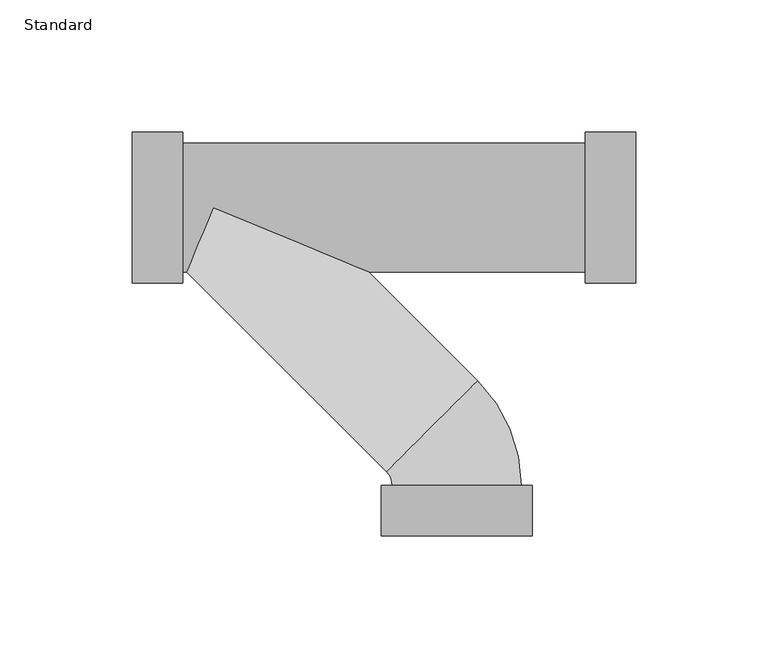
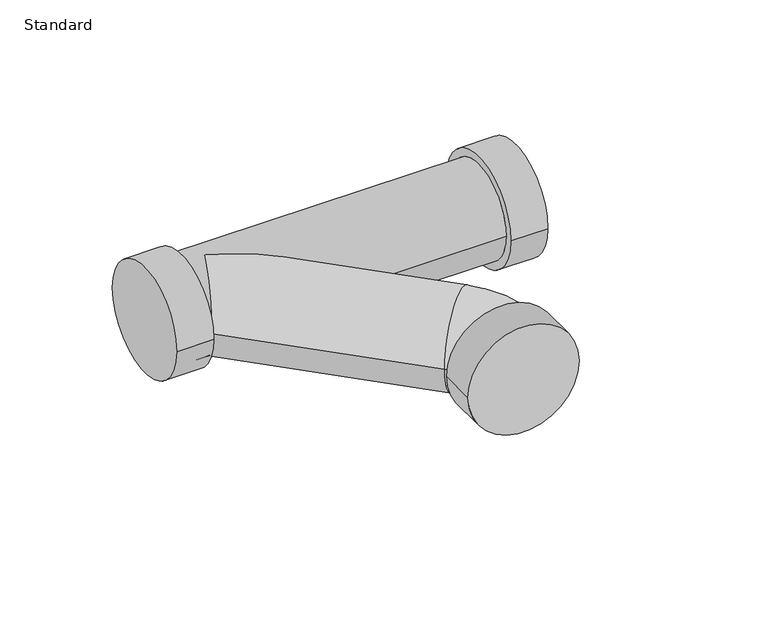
"""IFC4 building model written with IfcOpenShell, lengths in millimetres: pipe fitting geometry, GES Wye Combination with 8th Bend - PVC - Sch 40 - DWV : Standard."""

from ifc_helpers import new_model, si_unit, point, frame, origin, place, context, project, spatial, circle_curve, ellipse_curve, trimmed, source, transform, mapped, element, save
from ifc_brep_helpers import plane_surface, cylinder_surface, revolved_surface, advanced_brep


def standard_bea11b30(model_context):
    return source(origin(), model_context, "Body", "AdvancedBrep", [
        advanced_brep(
        [(-122.793125, -28.5611094, 0.0), (-122.793125, 28.5611094, 0.0), (-103.743125, -28.5611094, 0.0), (-103.743125, 28.5611094, 0.0), (-103.743125, -24.3760625, 0.0), (-103.743125, 24.3760625, 0.0), (48.7045, 24.3760625, 0.0), (-102.214525, -24.3760625, 0.0), (-92.1176293, 0.0, 24.3760625), (-33.2686086, -24.3760625, 0.0), (48.7045, -24.3760625, 0.0), (-92.1176293, 0.0, -24.3760625), (48.7045, -28.5611094, 0.0), (48.7045, 28.5611094, 0.0), (67.7545, -28.5611094, 0.0), (67.7545, 28.5611094, 0.0), (-26.5317703, -100.0588172, 0.0), (-24.3760625, -105.2631562, 0.0), (24.3760625, -105.2631562, 0.0), (7.9411879, -65.585859, 0.0), (-28.5611094, -105.2631563, 0.0), (28.5611094, -105.2631563, 0.0), (-28.5611094, -124.3131563, 0.0), (28.5611094, -124.3131563, 0.0)],
        [
            (0, 1, circle_curve(frame((-122.793125, 0.0, 0.0), z_axis=(-1.0, 0.0, 0.0), x_axis=(0.0, 1.0, 0.0)), 28.5611094)),
            (1, 0, circle_curve(frame((-122.793125, 0.0, 0.0), z_axis=(-1.0, 0.0, 0.0), x_axis=(0.0, 1.0, 0.0)), 28.5611094)),
            (2, 3, circle_curve(frame((-103.743125, 0.0, 0.0), z_axis=(1.0, 0.0, 0.0), x_axis=(0.0, 1.0, 0.0)), 28.5611094)),
            (3, 2, circle_curve(frame((-103.743125, 0.0, 0.0), z_axis=(1.0, 0.0, 0.0), x_axis=(0.0, 1.0, 0.0)), 28.5611094)),
            (4, 5, circle_curve(frame((-103.743125, 0.0, 0.0), z_axis=(-1.0, 0.0, 0.0), x_axis=(0.0, 1.0, 0.0)), 24.3760625)),
            (5, 4, circle_curve(frame((-103.743125, 0.0, 0.0), z_axis=(-1.0, 0.0, 0.0), x_axis=(0.0, 1.0, 0.0)), 24.3760625)),
            (0, 2),
            (3, 1),
            (6, 5),
            (4, 7),
            (7, 8, ellipse_curve(frame((-92.1176293, 0.0, 0.0), z_axis=(-0.9238795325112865, 0.3826834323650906, 0.0), x_axis=(-0.38268343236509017, -0.9238795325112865, 0.0)), 26.3844599, 24.3760625)),
            (8, 9, ellipse_curve(frame((-92.1176293, 0.0, 0.0), z_axis=(0.38268343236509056, 0.9238795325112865, 0.0), x_axis=(-0.9238795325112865, 0.3826834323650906, 0.0)), 63.697721, 24.3760625)),
            (9, 10),
            (10, 6, circle_curve(frame((48.7045, 0.0, 0.0), z_axis=(-1.0, 0.0, 0.0), x_axis=(0.0, 1.0, 0.0)), 24.3760625)),
            (6, 10, circle_curve(frame((48.7045, 0.0, 0.0), z_axis=(-1.0, 0.0, 0.0), x_axis=(0.0, 1.0, 0.0)), 24.3760625)),
            (9, 11, ellipse_curve(frame((-92.1176293, 0.0, 0.0), z_axis=(0.38268343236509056, 0.9238795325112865, 0.0), x_axis=(-0.9238795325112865, 0.3826834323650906, 0.0)), 63.697721, 24.3760625)),
            (11, 7, ellipse_curve(frame((-92.1176293, 0.0, 0.0), z_axis=(-0.9238795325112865, 0.3826834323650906, 0.0), x_axis=(-0.38268343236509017, -0.9238795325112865, 0.0)), 26.3844599, 24.3760625)),
            (12, 13, circle_curve(frame((48.7045, 0.0, 0.0), z_axis=(-1.0, 0.0, 0.0), x_axis=(0.0, 1.0, 0.0)), 28.5611094)),
            (13, 12, circle_curve(frame((48.7045, 0.0, 0.0), z_axis=(-1.0, 0.0, 0.0), x_axis=(0.0, 1.0, 0.0)), 28.5611094)),
            (14, 15, circle_curve(frame((67.7545, 0.0, 0.0), z_axis=(1.0, 0.0, 0.0), x_axis=(0.0, 1.0, 0.0)), 28.5611094)),
            (15, 14, circle_curve(frame((67.7545, 0.0, 0.0), z_axis=(1.0, 0.0, 0.0), x_axis=(0.0, 1.0, 0.0)), 28.5611094)),
            (12, 14),
            (15, 13),
            (16, 17, circle_curve(frame((-31.7361094, -105.2631562, 0.0), z_axis=(0.0, 0.0, -1.0), x_axis=(1.0, 0.0, 0.0)), 7.3600469)),
            (17, 18, circle_curve(frame((0.0, -105.2631562, 0.0), z_axis=(0.0, 1.0, 0.0), x_axis=(-1.0, 0.0, 0.0)), 24.3760625)),
            (18, 19, circle_curve(frame((-31.7361094, -105.2631562, 0.0), z_axis=(0.0, 0.0, 1.0), x_axis=(1.0, 0.0, 0.0)), 56.1121719)),
            (19, 16, circle_curve(frame((-9.2952912, -82.8223381, 0.0), z_axis=(0.7071067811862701, -0.7071067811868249, 0.0), x_axis=(-0.7071067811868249, -0.7071067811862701, 0.0)), 24.3760625)),
            (16, 19, circle_curve(frame((-9.2952912, -82.8223381, 0.0), z_axis=(0.7071067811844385, -0.7071067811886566, 0.0), x_axis=(-0.7071067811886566, -0.7071067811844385, 0.0)), 24.3760625)),
            (18, 17, circle_curve(frame((0.0, -105.2631562, 0.0), z_axis=(0.0, 1.0, 0.0), x_axis=(-1.0, 0.0, 0.0)), 24.3760625)),
            (19, 9),
            (7, 16),
            (20, 21, circle_curve(frame((0.0, -105.2631563, 0.0), z_axis=(0.0, 1.0, 0.0), x_axis=(1.0, 0.0, 0.0)), 28.5611094)),
            (21, 20, circle_curve(frame((0.0, -105.2631563, 0.0), z_axis=(0.0, 1.0, 0.0), x_axis=(1.0, 0.0, 0.0)), 28.5611094)),
            (22, 23, circle_curve(frame((0.0, -124.3131563, 0.0), z_axis=(0.0, -1.0, 0.0), x_axis=(1.0, 0.0, 0.0)), 28.5611094)),
            (23, 22, circle_curve(frame((0.0, -124.3131563, 0.0), z_axis=(0.0, -1.0, 0.0), x_axis=(1.0, 0.0, 0.0)), 28.5611094)),
            (20, 22),
            (23, 21),
        ],
        [
            plane_surface(frame((-122.793125, 0.0, 0.0), z_axis=(-1.0, 0.0, 0.0), x_axis=(0.0, 0.0, 1.0))),
            plane_surface(frame((-103.743125, 0.0, 0.0), z_axis=(1.0, 0.0, 0.0), x_axis=(0.0, 0.0, 1.0))),
            cylinder_surface(frame((-122.793125, 0.0, 0.0), z_axis=(-1.0, 0.0, 0.0), x_axis=(0.0, 1.0, 0.0)), 28.5611094),
            cylinder_surface(frame((-103.743125, 0.0, 0.0), z_axis=(-1.0, 0.0, 0.0), x_axis=(0.0, 1.0, 0.0)), 24.3760625),
            plane_surface(frame((48.7045, 0.0, 0.0), z_axis=(-1.0, 0.0, 0.0), x_axis=(0.0, 0.0, 1.0))),
            plane_surface(frame((67.7545, 0.0, 0.0), z_axis=(1.0, 0.0, 0.0), x_axis=(0.0, 0.0, 1.0))),
            cylinder_surface(frame((48.7045, 0.0, 0.0), z_axis=(-1.0, 0.0, 0.0), x_axis=(0.0, 1.0, 0.0)), 28.5611094),
            revolved_surface(trimmed(ellipse_curve(frame((0.0, -105.2631562, 0.0), z_axis=(0.0, -1.0, 0.0), x_axis=(-1.0, 0.0, 0.0)), 24.3760625, 24.3760625), [point((24.3760625, -105.2631562, 0.0))], [point((-24.3760625, -105.2631562, 0.0))], True, "CARTESIAN"), (-31.7361094, -105.2631562, 0.0), (0.0, 0.0, 1.0)),
            revolved_surface(trimmed(ellipse_curve(frame((0.0, -105.2631562, 0.0), z_axis=(0.0, -1.0, 0.0), x_axis=(-1.0, 0.0, 0.0)), 24.3760625, 24.3760625), [point((-24.3760625, -105.2631562, 0.0))], [point((24.3760625, -105.2631562, 0.0))], True, "CARTESIAN"), (-31.7361094, -105.2631562, 0.0), (0.0, 0.0, 1.0)),
            cylinder_surface(frame((-9.2952912, -82.8223381, 0.0), z_axis=(0.7071067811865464, -0.7071067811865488, 0.0), x_axis=(-0.7071067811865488, -0.7071067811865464, 0.0)), 24.3760625),
            plane_surface(frame((0.0, -105.2631563, 0.0), z_axis=(0.0, 1.0, 0.0), x_axis=(0.0, 0.0, 1.0))),
            plane_surface(frame((0.0, -124.3131563, 0.0), z_axis=(0.0, -1.0, 0.0), x_axis=(0.0, 0.0, 1.0))),
            cylinder_surface(frame((0.0, -105.2631563, 0.0), z_axis=(0.0, 1.0, 0.0), x_axis=(1.0, 0.0, 0.0)), 28.5611094),
        ],
        [
            (0, [[1, 2]]),
            (1, [[3, 4], [5, 6]]),
            (2, [[-1, 7, -4, 8]]),
            (2, [[-2, -8, -3, -7]]),
            (3, [[9, -5, 10, 11, 12, 13, 14]]),
            (3, [[-9, 15, -13, 16, 17, -10, -6]]),
            (4, [[18, 19], [-14, -15]]),
            (5, [[20, 21]]),
            (6, [[-18, 22, -21, 23]]),
            (6, [[-19, -23, -20, -22]]),
            (7, [[24, 25, 26, 27]]),
            (8, [[-24, 28, -26, 29]]),
            (9, [[-27, 30, -12, -11, 31]]),
            (9, [[-28, -31, -17, -16, -30]]),
            (10, [[32, 33], [-25, -29]]),
            (11, [[34, 35]]),
            (12, [[-32, 36, -35, 37]]),
            (12, [[-33, -37, -34, -36]]),
        ],
    ),
    ])


if __name__ == "__main__":
    model = new_model("IFC4")
    model_context = context("Model", 3, world=origin())
    ifc_project = project(units=[si_unit("LENGTHUNIT", "METRE", prefix="MILLI")], contexts=[model_context])
    site = spatial("IfcSite", under=ifc_project)
    building = spatial("IfcBuilding", under=site)
    placement = place(None, origin())
    standard_shape = standard_bea11b30(model_context)
    element("IfcPipeFitting", 1, ObjectType="GES Wye Combination with 8th Bend - PVC - Sch 40 - DWV : Standard", at=placement, inside=building, context=model_context, shape_type="MappedRepresentation", body=[
        mapped(standard_shape, transform((0.0, 0.0, 0.0), x_axis=(1.0, 0.0, 0.0), y_axis=(0.0, 1.0, 0.0), z_axis=(0.0, 0.0, 1.0))),
    ])
    save(model, "model.ifc")
